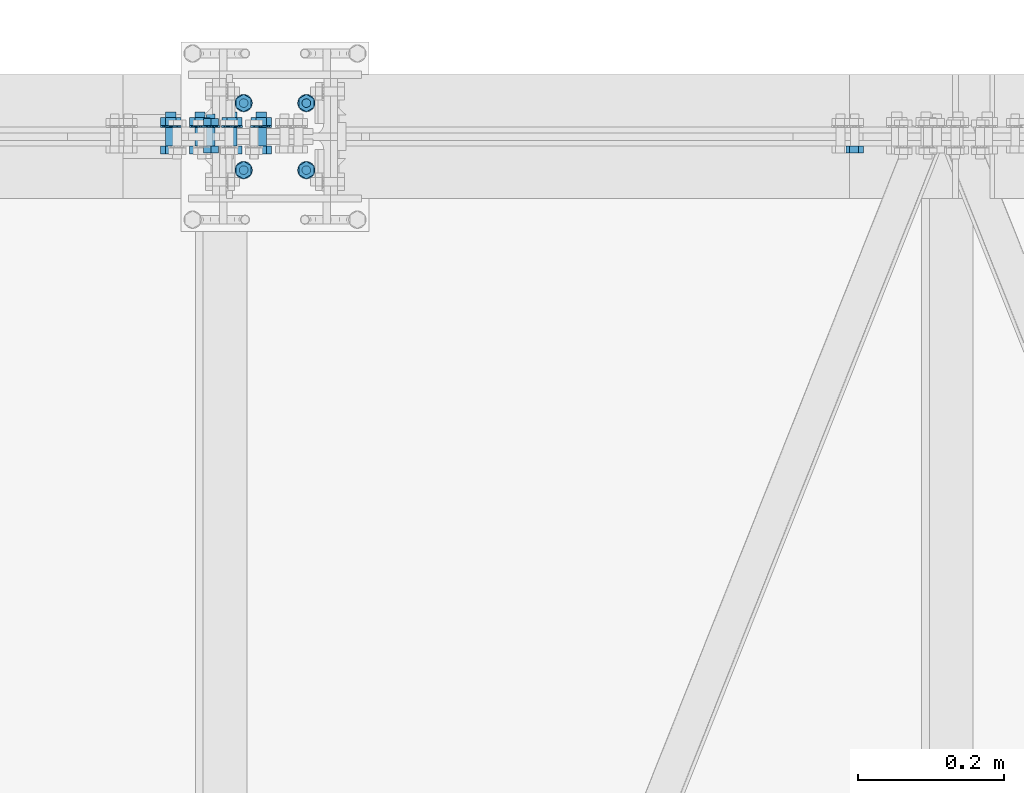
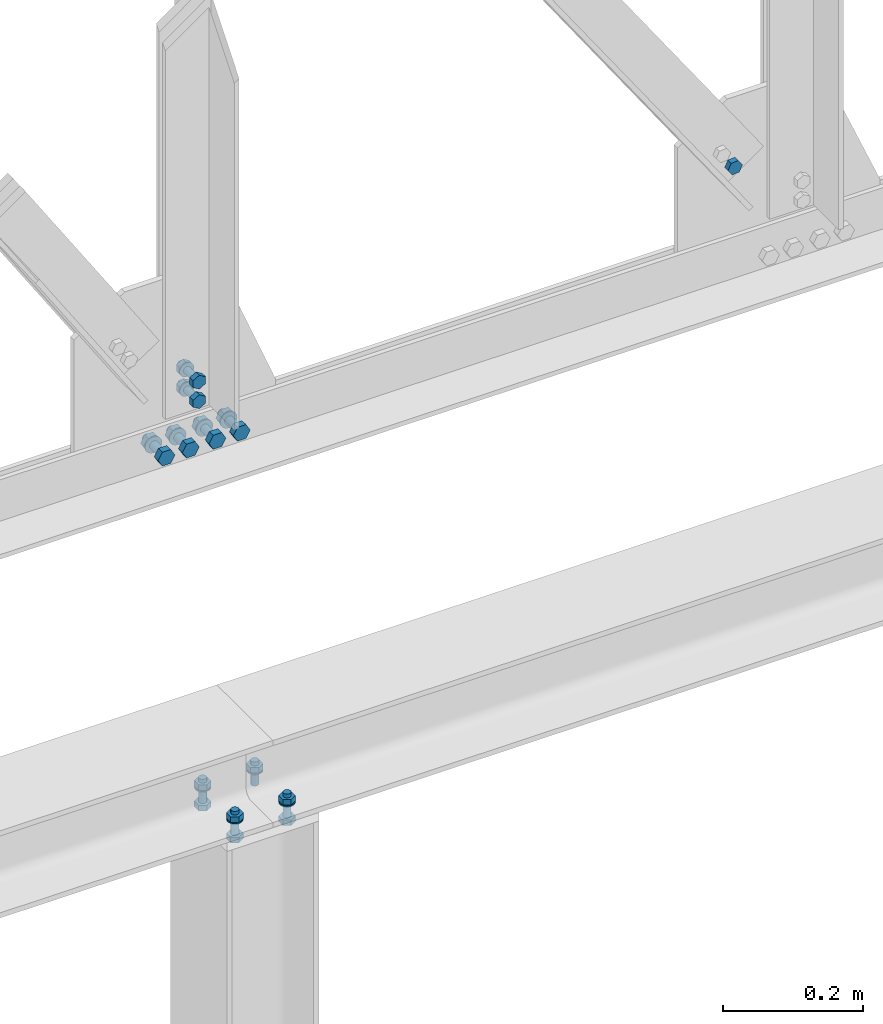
# One storey, part 215 of 251: 40 mechanical fasteners.
"""IFC4 building model written with IfcOpenShell, lengths in metres."""

from ifc_helpers import new_model, si_unit, frame, origin_with_axes, place, context, project, spatial, polyline, outline, extrude, type_object, element, save


model = new_model("IFC4")

# Units and contexts
model_context = context("Model", 3, precision=1e-05, world=origin_with_axes())
ifc_project = project(units=[si_unit("LENGTHUNIT", "METRE"), si_unit("AREAUNIT", "SQUARE_METRE"), si_unit("VOLUMEUNIT", "CUBIC_METRE"), si_unit("MASSUNIT", "GRAM", prefix="KILO"), si_unit("TIMEUNIT", "SECOND"), si_unit("PLANEANGLEUNIT", "RADIAN"), si_unit("SOLIDANGLEUNIT", "STERADIAN"), si_unit("THERMODYNAMICTEMPERATUREUNIT", "DEGREE_CELSIUS")], contexts=[model_context])

# Site, building, storey
placement_1 = place(None, origin_with_axes())
site = spatial("IfcSite", under=ifc_project, at=placement_1, Name="Italia", CompositionType="ELEMENT")
building = spatial("IfcBuilding", under=site, at=placement_1, Name="Deposito", CompositionType="ELEMENT")
storey = spatial("IfcBuildingStorey", under=building, at=placement_1, Name="Storey 0", CompositionType="ELEMENT", Elevation=0.0)

# Mechanical fasteners
mechanical_fastener_type_1 = type_object("IfcMechanicalFastenerType", Name="Collegamenti 7068_-014 7074_-015", PredefinedType="BOLT")
placement_2 = place(placement_1, origin_with_axes())
mechanical_fastener_1_placement = place(placement_2, origin_with_axes())
element("IfcMechanicalFastener", 1, at=mechanical_fastener_1_placement, inside=storey, type_object=mechanical_fastener_type_1, Name="Collegamenti 7068_-014 7074_-015", NominalDiameter=0.012, context=model_context, shape_type="SweptSolid", body=[
    extrude(outline(polyline([(0.0, 0.0), (-0.000204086, -0.00155258), (-0.000804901, -0.00300026), (-0.00175858, -0.0042429), (-0.00300026, -0.00519657), (-0.00444794, -0.00579548), (-0.00600052, -0.00599957), (-0.0075531, -0.00579548), (-0.00900078, -0.00519657), (-0.0102425, -0.0042429), (-0.0111961, -0.00300026), (-0.011797, -0.00155258), (-0.012001, 0.0), (-0.011797, 0.00155258), (-0.0111961, 0.00300026), (-0.0102425, 0.0042429), (-0.00900078, 0.00519657), (-0.0075531, 0.00579548), (-0.00600052, 0.00599957), (-0.00444794, 0.00579548), (-0.00300026, 0.00519657), (-0.00175858, 0.0042429), (-0.000804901, 0.00300026), (-0.000204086, 0.00155258), (0.0, 0.0)])), frame((15.143, 20.052, 4.375), z_axis=(0.0, 0.0, -1.0), x_axis=(0.0, 1.0, 0.0)), (0.0, 0.0, 1.0), 0.0419998),
])
mechanical_fastener_type_2 = type_object("IfcMechanicalFastenerType", Name="Collegamenti 7068_-014 7074_-015", PredefinedType="BOLT")
mechanical_fastener_2_placement = place(placement_2, origin_with_axes())
element("IfcMechanicalFastener", 2, at=mechanical_fastener_2_placement, inside=storey, type_object=mechanical_fastener_type_2, Name="Collegamenti 7068_-014 7074_-015", NominalDiameter=0.0119991, context=model_context, shape_type="SweptSolid", body=[
    extrude(outline(polyline([(0.0, 0.0), (0.0119991, 0.0), (0.0179996, -0.0103922), (0.0119991, -0.0207844), (0.0, -0.0207844), (-0.00600052, -0.0103922), (0.0, 0.0)])), frame((15.1534, 20.04, 4.3686), z_axis=(0.0, 0.0, -1.0), x_axis=(0.0, 1.0, 0.0)), (0.0, 0.0, 1.0), 0.00959969),
])
mechanical_fastener_type_3 = type_object("IfcMechanicalFastenerType", Name="Collegamenti 7068_-014 7074_-015", PredefinedType="BOLT")
mechanical_fastener_3_placement = place(placement_2, origin_with_axes())
element("IfcMechanicalFastener", 3, at=mechanical_fastener_3_placement, inside=storey, type_object=mechanical_fastener_type_3, Name="Collegamenti 7068_-014 7074_-015", NominalDiameter=0.024, context=model_context, shape_type="SweptSolid", body=[
    extrude(outline(polyline([(0.0, 0.0), (-0.000408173, -0.00310612), (-0.00160599, -0.00599957), (-0.00351334, -0.00848484), (-0.00599861, -0.0103922), (-0.00889397, -0.011591), (-0.0119991, -0.0120001), (-0.0151043, -0.011591), (-0.0179996, -0.0103922), (-0.0204849, -0.00848484), (-0.0223923, -0.00599957), (-0.0235901, -0.00310612), (-0.0239983, 0.0), (-0.0235901, 0.00310612), (-0.0223923, 0.00599957), (-0.0204849, 0.00848484), (-0.0179996, 0.0103922), (-0.0151043, 0.011591), (-0.0119991, 0.0120001), (-0.00889397, 0.011591), (-0.00599861, 0.0103922), (-0.00351334, 0.00848484), (-0.00160599, 0.00599957), (-0.000408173, 0.00310612), (0.0, 0.0)])), frame((15.143, 20.058, 4.359), z_axis=(0.0, 0.0, -1.0), x_axis=(0.0, 1.0, 0.0)), (0.0, 0.0, 1.0), 0.00200033),
])
mechanical_fastener_type_4 = type_object("IfcMechanicalFastenerType", Name="Collegamenti 7068_-014 7074_-015", PredefinedType="BOLT")
mechanical_fastener_4_placement = place(placement_2, origin_with_axes())
element("IfcMechanicalFastener", 4, at=mechanical_fastener_4_placement, inside=storey, type_object=mechanical_fastener_type_4, Name="Collegamenti 7068_-014 7074_-015", NominalDiameter=0.0119991, context=model_context, shape_type="SweptSolid", body=[
    extrude(outline(polyline([(0.0, 0.0), (0.0119991, 0.0), (0.0179996, -0.0103922), (0.0119991, -0.0207844), (0.0, -0.0207844), (-0.00600052, -0.0103922), (0.0, 0.0)])), frame((15.1534, 19.948, 4.333), z_axis=(0.0, 0.0, -1.0), x_axis=(0.0, 1.0, 0.0)), (0.0, 0.0, 1.0), 0.00960016),
])
mechanical_fastener_type_5 = type_object("IfcMechanicalFastenerType", Name="Collegamenti 7068_-014 7074_-015", PredefinedType="BOLT")
mechanical_fastener_5_placement = place(placement_2, origin_with_axes())
element("IfcMechanicalFastener", 5, at=mechanical_fastener_5_placement, inside=storey, type_object=mechanical_fastener_type_5, Name="Collegamenti 7068_-014 7074_-015", NominalDiameter=0.012, context=model_context, shape_type="SweptSolid", body=[
    extrude(outline(polyline([(0.0, 0.0), (-0.000204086, -0.00155258), (-0.000804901, -0.00300026), (-0.00175858, -0.0042429), (-0.00300026, -0.00519657), (-0.00444794, -0.00579548), (-0.00600052, -0.00599957), (-0.0075531, -0.00579548), (-0.00900078, -0.00519657), (-0.0102425, -0.0042429), (-0.0111961, -0.00300026), (-0.011797, -0.00155258), (-0.012001, 0.0), (-0.011797, 0.00155258), (-0.0111961, 0.00300026), (-0.0102425, 0.0042429), (-0.00900078, 0.00519657), (-0.0075531, 0.00579548), (-0.00600052, 0.00599957), (-0.00444794, 0.00579548), (-0.00300026, 0.00519657), (-0.00175858, 0.0042429), (-0.000804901, 0.00300026), (-0.000204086, 0.00155258), (0.0, 0.0)])), frame((15.143, 19.96, 4.375), z_axis=(0.0, 0.0, -1.0), x_axis=(0.0, 1.0, 0.0)), (0.0, 0.0, 1.0), 0.0419998),
])
mechanical_fastener_type_6 = type_object("IfcMechanicalFastenerType", Name="Collegamenti 7068_-014 7074_-015", PredefinedType="BOLT")
mechanical_fastener_6_placement = place(placement_2, origin_with_axes())
element("IfcMechanicalFastener", 6, at=mechanical_fastener_6_placement, inside=storey, type_object=mechanical_fastener_type_6, Name="Collegamenti 7068_-014 7074_-015", NominalDiameter=0.0119991, context=model_context, shape_type="SweptSolid", body=[
    extrude(outline(polyline([(0.0, 0.0), (0.0119991, 0.0), (0.0179996, -0.0103922), (0.0119991, -0.0207844), (0.0, -0.0207844), (-0.00600052, -0.0103922), (0.0, 0.0)])), frame((15.1534, 19.948, 4.3686), z_axis=(0.0, 0.0, -1.0), x_axis=(0.0, 1.0, 0.0)), (0.0, 0.0, 1.0), 0.00959969),
])
mechanical_fastener_type_7 = type_object("IfcMechanicalFastenerType", Name="Collegamenti 7068_-014 7074_-015", PredefinedType="BOLT")
mechanical_fastener_7_placement = place(placement_2, origin_with_axes())
element("IfcMechanicalFastener", 7, at=mechanical_fastener_7_placement, inside=storey, type_object=mechanical_fastener_type_7, Name="Collegamenti 7068_-014 7074_-015", NominalDiameter=0.024, context=model_context, shape_type="SweptSolid", body=[
    extrude(outline(polyline([(0.0, 0.0), (-0.000408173, -0.00310612), (-0.00160599, -0.00599957), (-0.00351334, -0.00848484), (-0.00599861, -0.0103922), (-0.00889397, -0.011591), (-0.0119991, -0.0120001), (-0.0151043, -0.011591), (-0.0179996, -0.0103922), (-0.0204849, -0.00848484), (-0.0223923, -0.00599957), (-0.0235901, -0.00310612), (-0.0239983, 0.0), (-0.0235901, 0.00310612), (-0.0223923, 0.00599957), (-0.0204849, 0.00848484), (-0.0179996, 0.0103922), (-0.0151043, 0.011591), (-0.0119991, 0.0120001), (-0.00889397, 0.011591), (-0.00599861, 0.0103922), (-0.00351334, 0.00848484), (-0.00160599, 0.00599957), (-0.000408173, 0.00310612), (0.0, 0.0)])), frame((15.143, 19.966, 4.359), z_axis=(0.0, 0.0, -1.0), x_axis=(0.0, 1.0, 0.0)), (0.0, 0.0, 1.0), 0.00200033),
])
mechanical_fastener_type_8 = type_object("IfcMechanicalFastenerType", Name="Collegamenti 7068_-014 7074_-015", PredefinedType="BOLT")
mechanical_fastener_8_placement = place(placement_2, origin_with_axes())
element("IfcMechanicalFastener", 8, at=mechanical_fastener_8_placement, inside=storey, type_object=mechanical_fastener_type_8, Name="Collegamenti 7068_-014 7074_-015", NominalDiameter=0.0119991, context=model_context, shape_type="SweptSolid", body=[
    extrude(outline(polyline([(0.0, 0.0), (0.0119991, 0.0), (0.0179996, -0.0103922), (0.0119991, -0.0207844), (0.0, -0.0207844), (-0.00600052, -0.0103922), (0.0, 0.0)])), frame((15.0674, 20.04, 4.333), z_axis=(0.0, 0.0, -1.0), x_axis=(0.0, 1.0, 0.0)), (0.0, 0.0, 1.0), 0.00960016),
])
mechanical_fastener_type_9 = type_object("IfcMechanicalFastenerType", Name="Collegamenti 7068_-014 7074_-015", PredefinedType="BOLT")
mechanical_fastener_9_placement = place(placement_2, origin_with_axes())
element("IfcMechanicalFastener", 9, at=mechanical_fastener_9_placement, inside=storey, type_object=mechanical_fastener_type_9, Name="Collegamenti 7068_-014 7074_-015", NominalDiameter=0.012, context=model_context, shape_type="SweptSolid", body=[
    extrude(outline(polyline([(0.0, 0.0), (-0.000204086, -0.00155258), (-0.000804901, -0.00300026), (-0.00175858, -0.0042429), (-0.00300026, -0.00519657), (-0.00444794, -0.00579548), (-0.00600052, -0.00599957), (-0.0075531, -0.00579548), (-0.00900078, -0.00519657), (-0.0102425, -0.0042429), (-0.0111961, -0.00300026), (-0.011797, -0.00155258), (-0.012001, 0.0), (-0.011797, 0.00155258), (-0.0111961, 0.00300026), (-0.0102425, 0.0042429), (-0.00900078, 0.00519657), (-0.0075531, 0.00579548), (-0.00600052, 0.00599957), (-0.00444794, 0.00579548), (-0.00300026, 0.00519657), (-0.00175858, 0.0042429), (-0.000804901, 0.00300026), (-0.000204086, 0.00155258), (0.0, 0.0)])), frame((15.057, 20.052, 4.375), z_axis=(0.0, 0.0, -1.0), x_axis=(0.0, 1.0, 0.0)), (0.0, 0.0, 1.0), 0.0419998),
])
mechanical_fastener_type_10 = type_object("IfcMechanicalFastenerType", Name="Collegamenti 7068_-014 7074_-015", PredefinedType="BOLT")
mechanical_fastener_10_placement = place(placement_2, origin_with_axes())
element("IfcMechanicalFastener", 10, at=mechanical_fastener_10_placement, inside=storey, type_object=mechanical_fastener_type_10, Name="Collegamenti 7068_-014 7074_-015", NominalDiameter=0.0119991, context=model_context, shape_type="SweptSolid", body=[
    extrude(outline(polyline([(0.0, 0.0), (0.0119991, 0.0), (0.0179996, -0.0103922), (0.0119991, -0.0207844), (0.0, -0.0207844), (-0.00600052, -0.0103922), (0.0, 0.0)])), frame((15.0674, 20.04, 4.3686), z_axis=(0.0, 0.0, -1.0), x_axis=(0.0, 1.0, 0.0)), (0.0, 0.0, 1.0), 0.00959969),
])
mechanical_fastener_type_11 = type_object("IfcMechanicalFastenerType", Name="Collegamenti 7068_-014 7074_-015", PredefinedType="BOLT")
mechanical_fastener_11_placement = place(placement_2, origin_with_axes())
element("IfcMechanicalFastener", 11, at=mechanical_fastener_11_placement, inside=storey, type_object=mechanical_fastener_type_11, Name="Collegamenti 7068_-014 7074_-015", NominalDiameter=0.024, context=model_context, shape_type="SweptSolid", body=[
    extrude(outline(polyline([(0.0, 0.0), (-0.000408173, -0.00310612), (-0.00160599, -0.00599957), (-0.00351334, -0.00848484), (-0.00599861, -0.0103922), (-0.00889397, -0.011591), (-0.0119991, -0.0120001), (-0.0151043, -0.011591), (-0.0179996, -0.0103922), (-0.0204849, -0.00848484), (-0.0223923, -0.00599957), (-0.0235901, -0.00310612), (-0.0239983, 0.0), (-0.0235901, 0.00310612), (-0.0223923, 0.00599957), (-0.0204849, 0.00848484), (-0.0179996, 0.0103922), (-0.0151043, 0.011591), (-0.0119991, 0.0120001), (-0.00889397, 0.011591), (-0.00599861, 0.0103922), (-0.00351334, 0.00848484), (-0.00160599, 0.00599957), (-0.000408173, 0.00310612), (0.0, 0.0)])), frame((15.057, 20.058, 4.359), z_axis=(0.0, 0.0, -1.0), x_axis=(0.0, 1.0, 0.0)), (0.0, 0.0, 1.0), 0.00200033),
])
mechanical_fastener_type_12 = type_object("IfcMechanicalFastenerType", Name="Collegamenti 7068_-014 7074_-015", PredefinedType="BOLT")
mechanical_fastener_12_placement = place(placement_2, origin_with_axes())
element("IfcMechanicalFastener", 12, at=mechanical_fastener_12_placement, inside=storey, type_object=mechanical_fastener_type_12, Name="Collegamenti 7068_-014 7074_-015", NominalDiameter=0.0119991, context=model_context, shape_type="SweptSolid", body=[
    extrude(outline(polyline([(0.0, 0.0), (0.0119991, 0.0), (0.0179996, -0.0103922), (0.0119991, -0.0207844), (0.0, -0.0207844), (-0.00600052, -0.0103922), (0.0, 0.0)])), frame((15.0674, 19.948, 4.333), z_axis=(0.0, 0.0, -1.0), x_axis=(0.0, 1.0, 0.0)), (0.0, 0.0, 1.0), 0.00960016),
])
mechanical_fastener_type_13 = type_object("IfcMechanicalFastenerType", Name="Collegamenti 7068_-014 7074_-015", PredefinedType="BOLT")
mechanical_fastener_13_placement = place(placement_2, origin_with_axes())
element("IfcMechanicalFastener", 13, at=mechanical_fastener_13_placement, inside=storey, type_object=mechanical_fastener_type_13, Name="Collegamenti 7068_-014 7074_-015", NominalDiameter=0.012, context=model_context, shape_type="SweptSolid", body=[
    extrude(outline(polyline([(0.0, 0.0), (-0.000204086, -0.00155258), (-0.000804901, -0.00300026), (-0.00175858, -0.0042429), (-0.00300026, -0.00519657), (-0.00444794, -0.00579548), (-0.00600052, -0.00599957), (-0.0075531, -0.00579548), (-0.00900078, -0.00519657), (-0.0102425, -0.0042429), (-0.0111961, -0.00300026), (-0.011797, -0.00155258), (-0.012001, 0.0), (-0.011797, 0.00155258), (-0.0111961, 0.00300026), (-0.0102425, 0.0042429), (-0.00900078, 0.00519657), (-0.0075531, 0.00579548), (-0.00600052, 0.00599957), (-0.00444794, 0.00579548), (-0.00300026, 0.00519657), (-0.00175858, 0.0042429), (-0.000804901, 0.00300026), (-0.000204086, 0.00155258), (0.0, 0.0)])), frame((15.057, 19.96, 4.375), z_axis=(0.0, 0.0, -1.0), x_axis=(0.0, 1.0, 0.0)), (0.0, 0.0, 1.0), 0.0419998),
])
mechanical_fastener_type_14 = type_object("IfcMechanicalFastenerType", Name="Collegamenti 7068_-014 7074_-015", PredefinedType="BOLT")
mechanical_fastener_14_placement = place(placement_2, origin_with_axes())
element("IfcMechanicalFastener", 14, at=mechanical_fastener_14_placement, inside=storey, type_object=mechanical_fastener_type_14, Name="Collegamenti 7068_-014 7074_-015", NominalDiameter=0.0119991, context=model_context, shape_type="SweptSolid", body=[
    extrude(outline(polyline([(0.0, 0.0), (0.0119991, 0.0), (0.0179996, -0.0103922), (0.0119991, -0.0207844), (0.0, -0.0207844), (-0.00600052, -0.0103922), (0.0, 0.0)])), frame((15.0674, 19.948, 4.3686), z_axis=(0.0, 0.0, -1.0), x_axis=(0.0, 1.0, 0.0)), (0.0, 0.0, 1.0), 0.00959969),
])
mechanical_fastener_type_15 = type_object("IfcMechanicalFastenerType", Name="Collegamenti 7068_-014 7074_-015", PredefinedType="BOLT")
mechanical_fastener_15_placement = place(placement_2, origin_with_axes())
element("IfcMechanicalFastener", 15, at=mechanical_fastener_15_placement, inside=storey, type_object=mechanical_fastener_type_15, Name="Collegamenti 7068_-014 7074_-015", NominalDiameter=0.024, context=model_context, shape_type="SweptSolid", body=[
    extrude(outline(polyline([(0.0, 0.0), (-0.000408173, -0.00310612), (-0.00160599, -0.00599957), (-0.00351334, -0.00848484), (-0.00599861, -0.0103922), (-0.00889397, -0.011591), (-0.0119991, -0.0120001), (-0.0151043, -0.011591), (-0.0179996, -0.0103922), (-0.0204849, -0.00848484), (-0.0223923, -0.00599957), (-0.0235901, -0.00310612), (-0.0239983, 0.0), (-0.0235901, 0.00310612), (-0.0223923, 0.00599957), (-0.0204849, 0.00848484), (-0.0179996, 0.0103922), (-0.0151043, 0.011591), (-0.0119991, 0.0120001), (-0.00889397, 0.011591), (-0.00599861, 0.0103922), (-0.00351334, 0.00848484), (-0.00160599, 0.00599957), (-0.000408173, 0.00310612), (0.0, 0.0)])), frame((15.057, 19.966, 4.359), z_axis=(0.0, 0.0, -1.0), x_axis=(0.0, 1.0, 0.0)), (0.0, 0.0, 1.0), 0.00200033),
])
mechanical_fastener_type_16 = type_object("IfcMechanicalFastenerType", Name="Reticolare 6", PredefinedType="BOLT")
mechanical_fastener_16_placement = place(placement_2, origin_with_axes())
element("IfcMechanicalFastener", 16, at=mechanical_fastener_16_placement, inside=storey, type_object=mechanical_fastener_type_16, Name="Reticolare 6", NominalDiameter=0.0139997, context=model_context, shape_type="SweptSolid", body=[
    extrude(outline(polyline([(0.0, 0.0), (-0.0139999, 0.0), (-0.0209999, 0.0121241), (-0.0139999, 0.0242486), (0.0, 0.0242486), (0.00699997, 0.0121241), (0.0, 0.0)])), frame((15.004, 19.987, 4.99688), z_axis=(0.0, -1.0, 0.0), x_axis=(1.0, 0.0, 0.0)), (0.0, 0.0, 1.0), 0.0112),
])
mechanical_fastener_type_17 = type_object("IfcMechanicalFastenerType", Name="Reticolare 6", PredefinedType="BOLT")
mechanical_fastener_17_placement = place(placement_2, origin_with_axes())
element("IfcMechanicalFastener", 17, at=mechanical_fastener_17_placement, inside=storey, type_object=mechanical_fastener_type_17, Name="Reticolare 6", NominalDiameter=0.014, context=model_context, shape_type="SweptSolid", body=[
    extrude(outline(polyline([(0.0, 0.0), (-0.000238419, -0.0018115), (-0.000937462, -0.00349998), (-0.0020504, -0.00494957), (-0.00349998, -0.00606203), (-0.00518799, -0.00676155), (-0.00699997, -0.00699997), (-0.00881195, -0.00676155), (-0.0105, -0.00606203), (-0.0119495, -0.00494957), (-0.0130625, -0.00349998), (-0.0137615, -0.0018115), (-0.0139999, 0.0), (-0.0137615, 0.0018115), (-0.0130625, 0.00349998), (-0.0119495, 0.00494957), (-0.0105, 0.00606203), (-0.00881195, 0.00676155), (-0.00699997, 0.00699997), (-0.00518799, 0.00676155), (-0.00349998, 0.00606203), (-0.0020504, 0.00494957), (-0.000937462, 0.00349998), (-0.000238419, 0.0018115), (0.0, 0.0)])), frame((15.004, 20.034, 5.009), z_axis=(0.0, -1.0, 0.0), x_axis=(1.0, 0.0, 0.0)), (0.0, 0.0, 1.0), 0.0470009),
])
mechanical_fastener_type_18 = type_object("IfcMechanicalFastenerType", Name="Reticolare 6", PredefinedType="BOLT")
mechanical_fastener_18_placement = place(placement_2, origin_with_axes())
element("IfcMechanicalFastener", 18, at=mechanical_fastener_18_placement, inside=storey, type_object=mechanical_fastener_type_18, Name="Reticolare 6", NominalDiameter=0.0139997, context=model_context, shape_type="SweptSolid", body=[
    extrude(outline(polyline([(0.0, 0.0), (-0.0139999, 0.0), (-0.0209999, 0.0121241), (-0.0139999, 0.0242486), (0.0, 0.0242486), (0.00699997, 0.0121241), (0.0, 0.0)])), frame((15.004, 20.0262, 4.99688), z_axis=(0.0, -1.0, 0.0), x_axis=(1.0, 0.0, 0.0)), (0.0, 0.0, 1.0), 0.0112),
])
mechanical_fastener_type_19 = type_object("IfcMechanicalFastenerType", Name="Reticolare 6", PredefinedType="BOLT")
mechanical_fastener_19_placement = place(placement_2, origin_with_axes())
element("IfcMechanicalFastener", 19, at=mechanical_fastener_19_placement, inside=storey, type_object=mechanical_fastener_type_19, Name="Reticolare 6", NominalDiameter=0.028, context=model_context, shape_type="SweptSolid", body=[
    extrude(outline(polyline([(0.0, 0.0), (-0.000476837, -0.00362349), (-0.00187588, -0.00699997), (-0.0041008, -0.00989962), (-0.00699997, -0.0121245), (-0.0103769, -0.0135231), (-0.0139999, -0.0139999), (-0.0176229, -0.0135231), (-0.0209999, -0.0121245), (-0.0238991, -0.00989962), (-0.026124, -0.00699997), (-0.027523, -0.00362349), (-0.0279999, 0.0), (-0.027523, 0.00362349), (-0.026124, 0.00699997), (-0.0238991, 0.00989962), (-0.0209999, 0.0121245), (-0.0176229, 0.0135231), (-0.0139999, 0.0139999), (-0.0103769, 0.0135231), (-0.00699997, 0.0121245), (-0.0041008, 0.00989962), (-0.00187588, 0.00699997), (-0.000476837, 0.00362349), (0.0, 0.0)])), frame((15.011, 20.015, 5.009), z_axis=(0.0, -1.0, 0.0), x_axis=(1.0, 0.0, 0.0)), (0.0, 0.0, 1.0), 0.0019989),
])
mechanical_fastener_type_20 = type_object("IfcMechanicalFastenerType", Name="Reticolare 6", PredefinedType="BOLT")
mechanical_fastener_20_placement = place(placement_2, origin_with_axes())
element("IfcMechanicalFastener", 20, at=mechanical_fastener_20_placement, inside=storey, type_object=mechanical_fastener_type_20, Name="Reticolare 6", NominalDiameter=0.0139997, context=model_context, shape_type="SweptSolid", body=[
    extrude(outline(polyline([(0.0, 0.0), (-0.0139999, 0.0), (-0.0209999, 0.0121241), (-0.0139999, 0.0242486), (0.0, 0.0242486), (0.00699997, 0.0121241), (0.0, 0.0)])), frame((14.964, 19.987, 4.99688), z_axis=(0.0, -1.0, 0.0), x_axis=(1.0, 0.0, 0.0)), (0.0, 0.0, 1.0), 0.0112),
])
mechanical_fastener_type_21 = type_object("IfcMechanicalFastenerType", Name="Reticolare 6", PredefinedType="BOLT")
mechanical_fastener_21_placement = place(placement_2, origin_with_axes())
element("IfcMechanicalFastener", 21, at=mechanical_fastener_21_placement, inside=storey, type_object=mechanical_fastener_type_21, Name="Reticolare 6", NominalDiameter=0.014, context=model_context, shape_type="SweptSolid", body=[
    extrude(outline(polyline([(0.0, 0.0), (-0.000238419, -0.0018115), (-0.000937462, -0.00349998), (-0.0020504, -0.00494957), (-0.00349998, -0.00606203), (-0.00518799, -0.00676155), (-0.00699997, -0.00699997), (-0.00881195, -0.00676155), (-0.0105, -0.00606203), (-0.0119495, -0.00494957), (-0.0130625, -0.00349998), (-0.0137615, -0.0018115), (-0.0139999, 0.0), (-0.0137615, 0.0018115), (-0.0130625, 0.00349998), (-0.0119495, 0.00494957), (-0.0105, 0.00606203), (-0.00881195, 0.00676155), (-0.00699997, 0.00699997), (-0.00518799, 0.00676155), (-0.00349998, 0.00606203), (-0.0020504, 0.00494957), (-0.000937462, 0.00349998), (-0.000238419, 0.0018115), (0.0, 0.0)])), frame((14.964, 20.034, 5.009), z_axis=(0.0, -1.0, 0.0), x_axis=(1.0, 0.0, 0.0)), (0.0, 0.0, 1.0), 0.0470009),
])
mechanical_fastener_type_22 = type_object("IfcMechanicalFastenerType", Name="Reticolare 6", PredefinedType="BOLT")
mechanical_fastener_22_placement = place(placement_2, origin_with_axes())
element("IfcMechanicalFastener", 22, at=mechanical_fastener_22_placement, inside=storey, type_object=mechanical_fastener_type_22, Name="Reticolare 6", NominalDiameter=0.0139997, context=model_context, shape_type="SweptSolid", body=[
    extrude(outline(polyline([(0.0, 0.0), (-0.0139999, 0.0), (-0.0209999, 0.0121241), (-0.0139999, 0.0242486), (0.0, 0.0242486), (0.00699997, 0.0121241), (0.0, 0.0)])), frame((14.964, 20.0262, 4.99688), z_axis=(0.0, -1.0, 0.0), x_axis=(1.0, 0.0, 0.0)), (0.0, 0.0, 1.0), 0.0112),
])
mechanical_fastener_type_23 = type_object("IfcMechanicalFastenerType", Name="Reticolare 6", PredefinedType="BOLT")
mechanical_fastener_23_placement = place(placement_2, origin_with_axes())
element("IfcMechanicalFastener", 23, at=mechanical_fastener_23_placement, inside=storey, type_object=mechanical_fastener_type_23, Name="Reticolare 6", NominalDiameter=0.028, context=model_context, shape_type="SweptSolid", body=[
    extrude(outline(polyline([(0.0, 0.0), (-0.000476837, -0.00362349), (-0.00187588, -0.00699997), (-0.0041008, -0.00989962), (-0.00699997, -0.0121245), (-0.0103769, -0.0135231), (-0.0139999, -0.0139999), (-0.0176229, -0.0135231), (-0.0209999, -0.0121245), (-0.0238991, -0.00989962), (-0.026124, -0.00699997), (-0.027523, -0.00362349), (-0.0279999, 0.0), (-0.027523, 0.00362349), (-0.026124, 0.00699997), (-0.0238991, 0.00989962), (-0.0209999, 0.0121245), (-0.0176229, 0.0135231), (-0.0139999, 0.0139999), (-0.0103769, 0.0135231), (-0.00699997, 0.0121245), (-0.0041008, 0.00989962), (-0.00187588, 0.00699997), (-0.000476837, 0.00362349), (0.0, 0.0)])), frame((14.971, 20.015, 5.009), z_axis=(0.0, -1.0, 0.0), x_axis=(1.0, 0.0, 0.0)), (0.0, 0.0, 1.0), 0.0019989),
])
mechanical_fastener_type_24 = type_object("IfcMechanicalFastenerType", Name="Reticolare 6", PredefinedType="BOLT")
mechanical_fastener_24_placement = place(placement_2, origin_with_axes())
element("IfcMechanicalFastener", 24, at=mechanical_fastener_24_placement, inside=storey, type_object=mechanical_fastener_type_24, Name="Reticolare 6", NominalDiameter=0.0139997, context=model_context, shape_type="SweptSolid", body=[
    extrude(outline(polyline([(0.0, 0.0), (-0.0139999, 0.0), (-0.0209999, 0.0121241), (-0.0139999, 0.0242486), (0.0, 0.0242486), (0.00699997, 0.0121241), (0.0, 0.0)])), frame((15.048, 19.987, 4.99688), z_axis=(0.0, -1.0, 0.0), x_axis=(1.0, 0.0, 0.0)), (0.0, 0.0, 1.0), 0.0112),
])
mechanical_fastener_type_25 = type_object("IfcMechanicalFastenerType", Name="Reticolare 6", PredefinedType="BOLT")
mechanical_fastener_25_placement = place(placement_2, origin_with_axes())
element("IfcMechanicalFastener", 25, at=mechanical_fastener_25_placement, inside=storey, type_object=mechanical_fastener_type_25, Name="Reticolare 6", NominalDiameter=0.014, context=model_context, shape_type="SweptSolid", body=[
    extrude(outline(polyline([(0.0, 0.0), (-0.000238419, -0.0018115), (-0.000937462, -0.00349998), (-0.0020504, -0.00494957), (-0.00349998, -0.00606203), (-0.00518799, -0.00676155), (-0.00699997, -0.00699997), (-0.00881195, -0.00676155), (-0.0105, -0.00606203), (-0.0119495, -0.00494957), (-0.0130625, -0.00349998), (-0.0137615, -0.0018115), (-0.0139999, 0.0), (-0.0137615, 0.0018115), (-0.0130625, 0.00349998), (-0.0119495, 0.00494957), (-0.0105, 0.00606203), (-0.00881195, 0.00676155), (-0.00699997, 0.00699997), (-0.00518799, 0.00676155), (-0.00349998, 0.00606203), (-0.0020504, 0.00494957), (-0.000937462, 0.00349998), (-0.000238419, 0.0018115), (0.0, 0.0)])), frame((15.048, 20.034, 5.009), z_axis=(0.0, -1.0, 0.0), x_axis=(1.0, 0.0, 0.0)), (0.0, 0.0, 1.0), 0.0470009),
])
mechanical_fastener_type_26 = type_object("IfcMechanicalFastenerType", Name="Reticolare 6", PredefinedType="BOLT")
mechanical_fastener_26_placement = place(placement_2, origin_with_axes())
element("IfcMechanicalFastener", 26, at=mechanical_fastener_26_placement, inside=storey, type_object=mechanical_fastener_type_26, Name="Reticolare 6", NominalDiameter=0.0139997, context=model_context, shape_type="SweptSolid", body=[
    extrude(outline(polyline([(0.0, 0.0), (-0.0139999, 0.0), (-0.0209999, 0.0121241), (-0.0139999, 0.0242486), (0.0, 0.0242486), (0.00699997, 0.0121241), (0.0, 0.0)])), frame((15.048, 20.0262, 4.99688), z_axis=(0.0, -1.0, 0.0), x_axis=(1.0, 0.0, 0.0)), (0.0, 0.0, 1.0), 0.0112),
])
mechanical_fastener_type_27 = type_object("IfcMechanicalFastenerType", Name="Reticolare 6", PredefinedType="BOLT")
mechanical_fastener_27_placement = place(placement_2, origin_with_axes())
element("IfcMechanicalFastener", 27, at=mechanical_fastener_27_placement, inside=storey, type_object=mechanical_fastener_type_27, Name="Reticolare 6", NominalDiameter=0.028, context=model_context, shape_type="SweptSolid", body=[
    extrude(outline(polyline([(0.0, 0.0), (-0.000476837, -0.00362349), (-0.00187588, -0.00699997), (-0.0041008, -0.00989962), (-0.00699997, -0.0121245), (-0.0103769, -0.0135231), (-0.0139999, -0.0139999), (-0.0176229, -0.0135231), (-0.0209999, -0.0121245), (-0.0238991, -0.00989962), (-0.026124, -0.00699997), (-0.027523, -0.00362349), (-0.0279999, 0.0), (-0.027523, 0.00362349), (-0.026124, 0.00699997), (-0.0238991, 0.00989962), (-0.0209999, 0.0121245), (-0.0176229, 0.0135231), (-0.0139999, 0.0139999), (-0.0103769, 0.0135231), (-0.00699997, 0.0121245), (-0.0041008, 0.00989962), (-0.00187588, 0.00699997), (-0.000476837, 0.00362349), (0.0, 0.0)])), frame((15.055, 20.015, 5.009), z_axis=(0.0, -1.0, 0.0), x_axis=(1.0, 0.0, 0.0)), (0.0, 0.0, 1.0), 0.0019989),
])
mechanical_fastener_type_28 = type_object("IfcMechanicalFastenerType", Name="Reticolare 6", PredefinedType="BOLT")
mechanical_fastener_28_placement = place(placement_2, origin_with_axes())
element("IfcMechanicalFastener", 28, at=mechanical_fastener_28_placement, inside=storey, type_object=mechanical_fastener_type_28, Name="Reticolare 6", NominalDiameter=0.0139997, context=model_context, shape_type="SweptSolid", body=[
    extrude(outline(polyline([(0.0, 0.0), (-0.0139999, 0.0), (-0.0209999, 0.0121241), (-0.0139999, 0.0242486), (0.0, 0.0242486), (0.00699997, 0.0121241), (0.0, 0.0)])), frame((15.088, 19.987, 4.99688), z_axis=(0.0, -1.0, 0.0), x_axis=(1.0, 0.0, 0.0)), (0.0, 0.0, 1.0), 0.0112),
])
mechanical_fastener_type_29 = type_object("IfcMechanicalFastenerType", Name="Reticolare 6", PredefinedType="BOLT")
mechanical_fastener_29_placement = place(placement_2, origin_with_axes())
element("IfcMechanicalFastener", 29, at=mechanical_fastener_29_placement, inside=storey, type_object=mechanical_fastener_type_29, Name="Reticolare 6", NominalDiameter=0.014, context=model_context, shape_type="SweptSolid", body=[
    extrude(outline(polyline([(0.0, 0.0), (-0.000238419, -0.0018115), (-0.000937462, -0.00349998), (-0.0020504, -0.00494957), (-0.00349998, -0.00606203), (-0.00518799, -0.00676155), (-0.00699997, -0.00699997), (-0.00881195, -0.00676155), (-0.0105, -0.00606203), (-0.0119495, -0.00494957), (-0.0130625, -0.00349998), (-0.0137615, -0.0018115), (-0.0139999, 0.0), (-0.0137615, 0.0018115), (-0.0130625, 0.00349998), (-0.0119495, 0.00494957), (-0.0105, 0.00606203), (-0.00881195, 0.00676155), (-0.00699997, 0.00699997), (-0.00518799, 0.00676155), (-0.00349998, 0.00606203), (-0.0020504, 0.00494957), (-0.000937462, 0.00349998), (-0.000238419, 0.0018115), (0.0, 0.0)])), frame((15.088, 20.034, 5.009), z_axis=(0.0, -1.0, 0.0), x_axis=(1.0, 0.0, 0.0)), (0.0, 0.0, 1.0), 0.0470009),
])
mechanical_fastener_type_30 = type_object("IfcMechanicalFastenerType", Name="Reticolare 6", PredefinedType="BOLT")
mechanical_fastener_30_placement = place(placement_2, origin_with_axes())
element("IfcMechanicalFastener", 30, at=mechanical_fastener_30_placement, inside=storey, type_object=mechanical_fastener_type_30, Name="Reticolare 6", NominalDiameter=0.0139997, context=model_context, shape_type="SweptSolid", body=[
    extrude(outline(polyline([(0.0, 0.0), (-0.0139999, 0.0), (-0.0209999, 0.0121241), (-0.0139999, 0.0242486), (0.0, 0.0242486), (0.00699997, 0.0121241), (0.0, 0.0)])), frame((15.088, 20.0262, 4.99688), z_axis=(0.0, -1.0, 0.0), x_axis=(1.0, 0.0, 0.0)), (0.0, 0.0, 1.0), 0.0112),
])
mechanical_fastener_type_31 = type_object("IfcMechanicalFastenerType", Name="Reticolare 6", PredefinedType="BOLT")
mechanical_fastener_31_placement = place(placement_2, origin_with_axes())
element("IfcMechanicalFastener", 31, at=mechanical_fastener_31_placement, inside=storey, type_object=mechanical_fastener_type_31, Name="Reticolare 6", NominalDiameter=0.028, context=model_context, shape_type="SweptSolid", body=[
    extrude(outline(polyline([(0.0, 0.0), (-0.000476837, -0.00362349), (-0.00187588, -0.00699997), (-0.0041008, -0.00989962), (-0.00699997, -0.0121245), (-0.0103769, -0.0135231), (-0.0139999, -0.0139999), (-0.0176229, -0.0135231), (-0.0209999, -0.0121245), (-0.0238991, -0.00989962), (-0.026124, -0.00699997), (-0.027523, -0.00362349), (-0.0279999, 0.0), (-0.027523, 0.00362349), (-0.026124, 0.00699997), (-0.0238991, 0.00989962), (-0.0209999, 0.0121245), (-0.0176229, 0.0135231), (-0.0139999, 0.0139999), (-0.0103769, 0.0135231), (-0.00699997, 0.0121245), (-0.0041008, 0.00989962), (-0.00187588, 0.00699997), (-0.000476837, 0.00362349), (0.0, 0.0)])), frame((15.095, 20.015, 5.009), z_axis=(0.0, -1.0, 0.0), x_axis=(1.0, 0.0, 0.0)), (0.0, 0.0, 1.0), 0.0019989),
])
mechanical_fastener_type_32 = type_object("IfcMechanicalFastenerType", Name="Reticolare 6", PredefinedType="BOLT")
mechanical_fastener_32_placement = place(placement_2, origin_with_axes())
element("IfcMechanicalFastener", 32, at=mechanical_fastener_32_placement, inside=storey, type_object=mechanical_fastener_type_32, Name="Reticolare 6", NominalDiameter=0.0119999, context=model_context, shape_type="SweptSolid", body=[
    extrude(outline(polyline([(0.0, 0.0), (0.0, -0.0120001), (-0.0103922, -0.0180001), (-0.0207844, -0.0120001), (-0.0207844, 0.0), (-0.0103922, 0.00600004), (0.0, 0.0)])), frame((15.0224, 19.987, 5.09253), z_axis=(0.0, -1.0, 0.0), x_axis=(1.0, 0.0, 0.0)), (0.0, 0.0, 1.0), 0.00959969),
])
mechanical_fastener_type_33 = type_object("IfcMechanicalFastenerType", Name="Reticolare 6", PredefinedType="BOLT")
mechanical_fastener_33_placement = place(placement_2, origin_with_axes())
element("IfcMechanicalFastener", 33, at=mechanical_fastener_33_placement, inside=storey, type_object=mechanical_fastener_type_33, Name="Reticolare 6", NominalDiameter=0.012, context=model_context, shape_type="SweptSolid", body=[
    extrude(outline(polyline([(0.0, 0.0), (-0.000204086, -0.00155306), (-0.000802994, -0.00299978), (-0.00175667, -0.00424242), (-0.00299931, -0.00519609), (-0.00444698, -0.00579548), (-0.00599957, -0.00600004), (-0.00755215, -0.00579548), (-0.00899982, -0.00519609), (-0.0102425, -0.00424242), (-0.0111961, -0.00299978), (-0.011795, -0.00155306), (-0.0119991, 0.0), (-0.011795, 0.00155306), (-0.0111961, 0.00299978), (-0.0102425, 0.00424242), (-0.00899982, 0.00519609), (-0.00755215, 0.00579548), (-0.00599957, 0.00600004), (-0.00444698, 0.00579548), (-0.00299931, 0.00519609), (-0.00175667, 0.00424242), (-0.000802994, 0.00299978), (-0.000204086, 0.00155306), (0.0, 0.0)])), frame((15.018, 20.031, 5.08653), z_axis=(0.0, -1.0, 0.0), x_axis=(1.0, 0.0, 0.0)), (0.0, 0.0, 1.0), 0.0440006),
])
mechanical_fastener_type_34 = type_object("IfcMechanicalFastenerType", Name="Reticolare 6", PredefinedType="BOLT")
mechanical_fastener_34_placement = place(placement_2, origin_with_axes())
element("IfcMechanicalFastener", 34, at=mechanical_fastener_34_placement, inside=storey, type_object=mechanical_fastener_type_34, Name="Reticolare 6", NominalDiameter=0.0119999, context=model_context, shape_type="SweptSolid", body=[
    extrude(outline(polyline([(0.0, 0.0), (0.0, -0.0120001), (-0.0103922, -0.0180001), (-0.0207844, -0.0120001), (-0.0207844, 0.0), (-0.0103922, 0.00600004), (0.0, 0.0)])), frame((15.0224, 20.0246, 5.09253), z_axis=(0.0, -1.0, 0.0), x_axis=(1.0, 0.0, 0.0)), (0.0, 0.0, 1.0), 0.00959969),
])
mechanical_fastener_type_35 = type_object("IfcMechanicalFastenerType", Name="Reticolare 6", PredefinedType="BOLT")
mechanical_fastener_35_placement = place(placement_2, origin_with_axes())
element("IfcMechanicalFastener", 35, at=mechanical_fastener_35_placement, inside=storey, type_object=mechanical_fastener_type_35, Name="Reticolare 6", NominalDiameter=0.024, context=model_context, shape_type="SweptSolid", body=[
    extrude(outline(polyline([(0.0, 0.0), (-0.000409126, -0.00310564), (-0.00160789, -0.00600004), (-0.00351524, -0.00848532), (-0.00600052, -0.0103922), (-0.00889397, -0.011591), (-0.0120001, -0.0120001), (-0.0151062, -0.011591), (-0.0179996, -0.0103922), (-0.0204849, -0.00848532), (-0.0223923, -0.00600004), (-0.023591, -0.00310564), (-0.0240002, 0.0), (-0.023591, 0.00310564), (-0.0223923, 0.00600004), (-0.0204849, 0.00848532), (-0.0179996, 0.0103922), (-0.0151062, 0.011591), (-0.0120001, 0.0120001), (-0.00889397, 0.011591), (-0.00600052, 0.0103922), (-0.00351524, 0.00848532), (-0.00160789, 0.00600004), (-0.000409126, 0.00310564), (0.0, 0.0)])), frame((15.024, 20.015, 5.08653), z_axis=(0.0, -1.0, 0.0), x_axis=(1.0, 0.0, 0.0)), (0.0, 0.0, 1.0), 0.0019989),
])
mechanical_fastener_type_36 = type_object("IfcMechanicalFastenerType", Name="Reticolare 6", PredefinedType="BOLT")
mechanical_fastener_36_placement = place(placement_2, origin_with_axes())
element("IfcMechanicalFastener", 36, at=mechanical_fastener_36_placement, inside=storey, type_object=mechanical_fastener_type_36, Name="Reticolare 6", NominalDiameter=0.0119999, context=model_context, shape_type="SweptSolid", body=[
    extrude(outline(polyline([(0.0, 0.0), (0.0, -0.0120001), (-0.0103922, -0.0180001), (-0.0207844, -0.0120001), (-0.0207844, 0.0), (-0.0103922, 0.00600004), (0.0, 0.0)])), frame((15.0224, 19.987, 5.12653), z_axis=(0.0, -1.0, 0.0), x_axis=(1.0, 0.0, 0.0)), (0.0, 0.0, 1.0), 0.00959969),
])
mechanical_fastener_type_37 = type_object("IfcMechanicalFastenerType", Name="Reticolare 6", PredefinedType="BOLT")
mechanical_fastener_37_placement = place(placement_2, origin_with_axes())
element("IfcMechanicalFastener", 37, at=mechanical_fastener_37_placement, inside=storey, type_object=mechanical_fastener_type_37, Name="Reticolare 6", NominalDiameter=0.012, context=model_context, shape_type="SweptSolid", body=[
    extrude(outline(polyline([(0.0, 0.0), (-0.000204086, -0.00155306), (-0.000802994, -0.00299978), (-0.00175667, -0.00424242), (-0.00299931, -0.00519609), (-0.00444698, -0.00579548), (-0.00599957, -0.00600004), (-0.00755215, -0.00579548), (-0.00899982, -0.00519609), (-0.0102425, -0.00424242), (-0.0111961, -0.00299978), (-0.011795, -0.00155306), (-0.0119991, 0.0), (-0.011795, 0.00155306), (-0.0111961, 0.00299978), (-0.0102425, 0.00424242), (-0.00899982, 0.00519609), (-0.00755215, 0.00579548), (-0.00599957, 0.00600004), (-0.00444698, 0.00579548), (-0.00299931, 0.00519609), (-0.00175667, 0.00424242), (-0.000802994, 0.00299978), (-0.000204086, 0.00155306), (0.0, 0.0)])), frame((15.018, 20.031, 5.12053), z_axis=(0.0, -1.0, 0.0), x_axis=(1.0, 0.0, 0.0)), (0.0, 0.0, 1.0), 0.0440006),
])
mechanical_fastener_type_38 = type_object("IfcMechanicalFastenerType", Name="Reticolare 6", PredefinedType="BOLT")
mechanical_fastener_38_placement = place(placement_2, origin_with_axes())
element("IfcMechanicalFastener", 38, at=mechanical_fastener_38_placement, inside=storey, type_object=mechanical_fastener_type_38, Name="Reticolare 6", NominalDiameter=0.0119999, context=model_context, shape_type="SweptSolid", body=[
    extrude(outline(polyline([(0.0, 0.0), (0.0, -0.0120001), (-0.0103922, -0.0180001), (-0.0207844, -0.0120001), (-0.0207844, 0.0), (-0.0103922, 0.00600004), (0.0, 0.0)])), frame((15.0224, 20.0246, 5.12653), z_axis=(0.0, -1.0, 0.0), x_axis=(1.0, 0.0, 0.0)), (0.0, 0.0, 1.0), 0.00959969),
])
mechanical_fastener_type_39 = type_object("IfcMechanicalFastenerType", Name="Reticolare 6", PredefinedType="BOLT")
mechanical_fastener_39_placement = place(placement_2, origin_with_axes())
element("IfcMechanicalFastener", 39, at=mechanical_fastener_39_placement, inside=storey, type_object=mechanical_fastener_type_39, Name="Reticolare 6", NominalDiameter=0.024, context=model_context, shape_type="SweptSolid", body=[
    extrude(outline(polyline([(0.0, 0.0), (-0.000409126, -0.00310564), (-0.00160789, -0.00600004), (-0.00351524, -0.00848532), (-0.00600052, -0.0103922), (-0.00889397, -0.011591), (-0.0120001, -0.0120001), (-0.0151062, -0.011591), (-0.0179996, -0.0103922), (-0.0204849, -0.00848532), (-0.0223923, -0.00600004), (-0.023591, -0.00310564), (-0.0240002, 0.0), (-0.023591, 0.00310564), (-0.0223923, 0.00600004), (-0.0204849, 0.00848532), (-0.0179996, 0.0103922), (-0.0151062, 0.011591), (-0.0120001, 0.0120001), (-0.00889397, 0.011591), (-0.00600052, 0.0103922), (-0.00351524, 0.00848532), (-0.00160789, 0.00600004), (-0.000409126, 0.00310564), (0.0, 0.0)])), frame((15.024, 20.015, 5.12053), z_axis=(0.0, -1.0, 0.0), x_axis=(1.0, 0.0, 0.0)), (0.0, 0.0, 1.0), 0.0019989),
])
mechanical_fastener_type_40 = type_object("IfcMechanicalFastenerType", Name="Reticolare 6", PredefinedType="BOLT")
mechanical_fastener_40_placement = place(placement_2, origin_with_axes())
element("IfcMechanicalFastener", 40, at=mechanical_fastener_40_placement, inside=storey, type_object=mechanical_fastener_type_40, Name="Reticolare 6", NominalDiameter=0.0119994, context=model_context, shape_type="SweptSolid", body=[
    extrude(outline(polyline([(0.0, 0.0), (-0.00684071, 0.00985909), (-0.00172329, 0.0207129), (0.0102358, 0.0217075), (0.0170765, 0.0118484), (0.0119581, 0.000994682), (0.0, 0.0)])), frame((15.8903, 19.987, 5.17415), z_axis=(0.0, -1.0, 0.0), x_axis=(1.0, 0.0, 0.0)), (0.0, 0.0, 1.0), 0.00959969),
])

save(model, "model.ifc")
